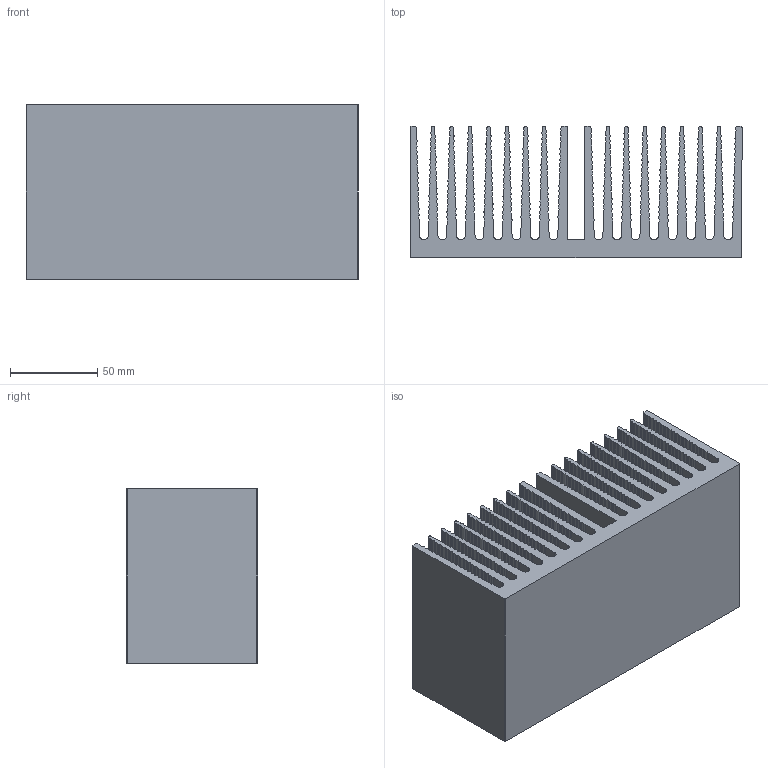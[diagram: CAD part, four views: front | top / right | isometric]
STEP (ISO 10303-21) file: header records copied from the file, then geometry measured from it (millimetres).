
FILE_DESCRIPTION (( 'STEP AP214' ), '1' );
FILE_NAME ('PR379.STEP', '2013-06-12T17:34:58', ( '' ), ( '' ), 'SwSTEP 2.0', 'SolidWorks 2013', '' );
FILE_SCHEMA (( 'AUTOMOTIVE_DESIGN' ));
Length unit declared in the file: millimetre
Products named in the file (1): PR379
Bounding box: 190 x 75 x 100 mm (x, y, z)
Volume: 662597.6 mm3; surface area: 285860.2 mm2
Topology: 1 solids, 1 shells, 2612 faces, 7830 edges, 5220 vertices
Faces by surface type: cylinder 1400, plane 1212
Entity records: 88988 total; most frequent: DIRECTION 15856, CARTESIAN_POINT 15663, ORIENTED_EDGE 15660, EDGE_CURVE 7830, AXIS2_PLACEMENT_3D 5413, VERTEX_POINT 5220, VECTOR 5030, LINE 5030
